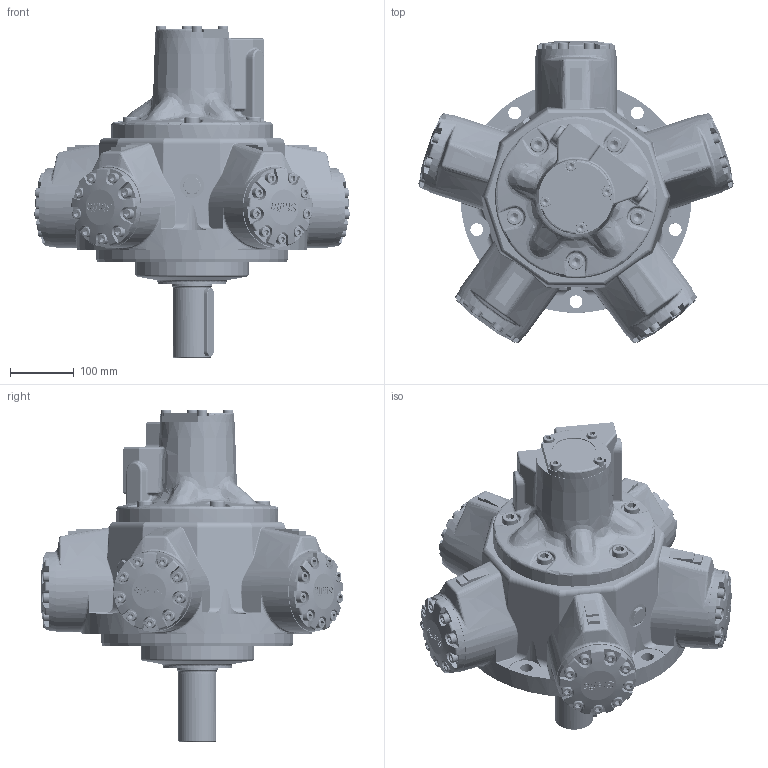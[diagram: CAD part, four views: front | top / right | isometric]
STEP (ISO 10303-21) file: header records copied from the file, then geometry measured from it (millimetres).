
FILE_DESCRIPTION((''),'2;1');
FILE_NAME('I:\3D Step files\APPROVED 3D MODELS FOR WEB\Staffa\HMB060_080 P FM3 70.stp','2009-10-21T14:46:35',('mnorman'),(''),'Autodesk Inventor 2010','Autodesk Inventor 2010','');
FILE_SCHEMA(('AUTOMOTIVE_DESIGN { 1 0 10303 214 1 1 1 1 }'));
Length unit declared in the file: millimetre
Products named in the file (1): Part2
Bounding box: 494.27 x 473.69 x 520.35 mm (x, y, z)
Volume: 16223989.6 mm3; surface area: 1438203.8 mm2
Topology: 122 solids, 122 shells, 3489 faces, 8588 edges, 5529 vertices
Faces by surface type: plane 1334, bspline 1285, cylinder 498, cone 196, torus 156, sphere 20
Full cylindrical faces by diameter (mm): 6.2 x1, 10 x59, 10.5 x45, 15.875 x10, 16 x59, 16.272 x5, 16.51 x1, 17 x10, 19.05 x1, 20 x5, 22.225 x5, 23.825 x5, 25.4 x5, 28.677 x5, 31.75 x2, 38.1 x3, 38.176 x5, 60.002 x1, 63.475 x1, 65.126 x1, 67.564 x1, 68.58 x1, 71.952 x1, 73.228 x5, 75.032 x1, 76.06 x2, 76.205 x1, 79.318 x10, 79.388 x5, 80.772 x1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
Entity records: 132115 total; most frequent: CARTESIAN_POINT 58932, ORIENTED_EDGE 14624, DIRECTION 11736, EDGE_CURVE 7312, VERTEX_POINT 5084, EDGE_LOOP 4650, AXIS2_PLACEMENT_3D 4428, STYLED_ITEM 3552
